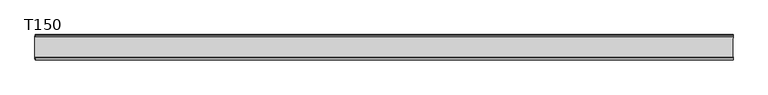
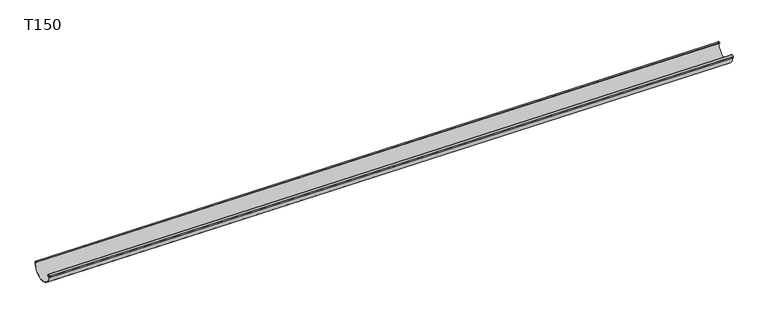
"""IFC4 building model written with IfcOpenShell, lengths in millimetres: proxy geometry, GROVIK_Gutter_Straight : T150."""

from ifc_helpers import new_model, si_unit, frame, origin, place, context, project, spatial, polyline, circle_curve, source, transform, mapped, element, save
from ifc_brep_helpers import plane_surface, cylinder_surface, revolved_surface, advanced_brep


def t150_019cf6e0(model_context):
    return source(origin(), model_context, "Body", "AdvancedBrep", [
        advanced_brep(
        [(119.9997573, -2.2000746, -0.0242675), (119.9820009, 0.0, -1.79991), (119.8376879, -148.4372161, -16.2312056), (119.9479959, -150.0, -5.2004066), (119.8939251, -147.5920528, -10.6074948), (119.9099408, -148.3363785, -9.0059161), (119.9445025, -148.8875189, -5.549755), (119.945996, -148.0, -5.4003966), (119.9105259, -147.4343725, -8.9474054), (119.9002942, -146.9551017, -9.9705756), (119.9461892, -149.0946963, -5.3810776), (119.8397148, -147.4579744, -16.0285195), (119.9794608, -1.003133, -2.0539243), (119.9904407, -2.2975071, -0.9559271), (119.9770489, -9.7857475, -2.2951132), (119.9859078, -9.9441961, -1.409215), (4239.9997573, -2.2000746, -41.2242675), (4239.9859078, -9.9441961, -42.609215), (4239.9770489, -9.7857475, -43.4951132), (4239.9904407, -2.2975071, -42.1559271), (4239.9794609, -1.0039531, -43.253913), (4239.8397148, -147.4579744, -57.2285195), (4239.9461892, -149.0946963, -46.5810776), (4239.9002942, -146.9551017, -51.1705756), (4239.9105259, -147.4343725, -50.1474054), (4239.945996, -148.0, -46.6003966), (4239.9445025, -148.8875189, -46.749755), (4239.9099408, -148.3363785, -50.2059161), (4239.8939251, -147.5920528, -51.8074948), (4239.9479959, -150.0, -46.4004066), (4239.8376879, -148.4372161, -57.4312056), (4239.9820009, 0.0, -42.99991)],
        [
            (0, 1, circle_curve(frame((119.9810009, -1.8973666, -1.899905), z_axis=(-0.9999500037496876, 0.0, 0.009999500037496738), x_axis=(0.0, -1.0, 0.0)), 1.9)),
            (1, 2, circle_curve(frame((119.9897005, -74.995059, -1.0299485), z_axis=(-0.9999500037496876, 0.0, 0.009999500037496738), x_axis=(0.0, 1.0, 0.0)), 74.9990118)),
            (2, 3),
            (3, 4, circle_curve(frame((119.9489959, -142.5, -5.1004116), z_axis=(-0.9999500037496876, 0.0, 0.009999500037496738), x_axis=(0.0, -1.0, 0.0)), 7.5006666)),
            (4, 5, circle_curve(frame((119.9150272, -145.1464101, -8.4972753), z_axis=(-0.9999500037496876, 0.0, 0.009999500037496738), x_axis=(0.0, -1.0, 0.0)), 3.2302694)),
            (5, 6),
            (6, 7),
            (7, 8),
            (8, 9, circle_curve(frame((119.9137458, -145.4150076, -8.6254175), z_axis=(0.9999500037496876, 0.0, -0.009999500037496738), x_axis=(0.0, -1.0, 0.0)), 2.0448768)),
            (9, 10, circle_curve(frame((119.9489959, -142.5, -5.1004116), z_axis=(0.9999500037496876, 0.0, -0.009999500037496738), x_axis=(0.0, -1.0, 0.0)), 6.6006666)),
            (10, 11),
            (11, 12, circle_curve(frame((119.9897005, -74.995059, -1.0299485), z_axis=(0.9999500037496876, 0.0, -0.009999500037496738), x_axis=(0.0, 1.0, 0.0)), 73.9990118)),
            (12, 13, circle_curve(frame((119.9796131, -2.1038477, -2.0386915), z_axis=(0.9999500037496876, 0.0, -0.009999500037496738), x_axis=(0.0, -1.0, 0.0)), 1.1)),
            (13, 14),
            (14, 15),
            (15, 0),
            (16, 17),
            (17, 18),
            (18, 19),
            (19, 20, circle_curve(frame((4239.9796131, -2.1038477, -43.2386915), z_axis=(-0.9999500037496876, 0.0, 0.009999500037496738), x_axis=(0.0, -1.0, 0.0)), 1.1)),
            (20, 21, circle_curve(frame((4239.9897005, -74.995059, -42.2299485), z_axis=(-0.9999500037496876, 0.0, 0.009999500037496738), x_axis=(0.0, 1.0, 0.0)), 73.9990118)),
            (21, 22),
            (22, 23, circle_curve(frame((4239.9489959, -142.5, -46.3004116), z_axis=(-0.9999500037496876, 0.0, 0.009999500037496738), x_axis=(0.0, -1.0, 0.0)), 6.6006666)),
            (23, 24, circle_curve(frame((4239.9137458, -145.4150076, -49.8254175), z_axis=(-0.9999500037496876, 0.0, 0.009999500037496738), x_axis=(0.0, -1.0, 0.0)), 2.0448768)),
            (24, 25),
            (25, 26),
            (26, 27),
            (27, 28, circle_curve(frame((4239.9150272, -145.1464101, -49.6972753), z_axis=(0.9999500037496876, 0.0, -0.009999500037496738), x_axis=(0.0, -1.0, 0.0)), 3.2302694)),
            (28, 29, circle_curve(frame((4239.9489959, -142.5, -46.3004116), z_axis=(0.9999500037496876, 0.0, -0.009999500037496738), x_axis=(0.0, -1.0, 0.0)), 7.5006666)),
            (29, 30),
            (30, 31, circle_curve(frame((4239.9897005, -74.995059, -42.2299485), z_axis=(0.9999500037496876, 0.0, -0.009999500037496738), x_axis=(0.0, 1.0, 0.0)), 74.9990118)),
            (31, 16, circle_curve(frame((4239.9810009, -1.8973666, -43.099905), z_axis=(0.9999500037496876, 0.0, -0.009999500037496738), x_axis=(0.0, -1.0, 0.0)), 1.9)),
            (12, 20),
            (19, 13),
            (18, 14),
            (17, 15),
            (16, 0),
            (31, 1),
            (30, 2),
            (29, 3),
            (28, 4),
            (27, 5),
            (26, 6),
            (25, 7),
            (24, 8),
            (23, 9),
            (22, 10),
            (21, 11),
        ],
        [
            plane_surface(frame((120.0, 0.0, 0.0), z_axis=(-0.9999500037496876, 0.0, 0.009999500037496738), x_axis=(0.0, -1.0, 0.0))),
            plane_surface(frame((4240.0, 0.0, -41.2), z_axis=(0.9999500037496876, 0.0, -0.009999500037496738), x_axis=(0.0, -1.0, 0.0))),
            revolved_surface(polyline([(4239.979613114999, -3.2038477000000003, -43.23869150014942), (119.9796130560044, -3.2038477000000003, -2.038691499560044)]), (119.9796131, -2.1038477, -2.0386915), (0.9999500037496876, 0.0, -0.009999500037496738)),
            plane_surface(frame((119.9904407, -2.2975071, -0.9559271), z_axis=(-0.009843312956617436, 0.17605399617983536, -0.9843312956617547), x_axis=(0.9999500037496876, 0.0, -0.009999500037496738))),
            plane_surface(frame((119.9770489, -9.7857475, -2.2951132), z_axis=(-0.001760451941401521, -0.9843805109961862, -0.17604519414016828), x_axis=(0.9999500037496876, 0.0, -0.009999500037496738))),
            plane_surface(frame((119.9859078, -9.9441961, -1.409215), z_axis=(0.009843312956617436, -0.17605399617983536, 0.9843312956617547), x_axis=(0.9999500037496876, 0.0, -0.009999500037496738))),
            cylinder_surface(frame((119.9810009, -1.8973666, -1.899905), z_axis=(-0.9999500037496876, 0.0, 0.009999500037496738), x_axis=(0.0, -1.0, 0.0)), 1.9),
            cylinder_surface(frame((119.9897005, -74.995059, -1.0299485), z_axis=(-0.9999500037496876, 0.0, 0.009999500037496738), x_axis=(0.0, 1.0, 0.0)), 74.9990118),
            plane_surface(frame((119.8376879, -148.4372161, -16.2312056), z_axis=(-0.0014025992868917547, -0.9901137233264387, -0.14025992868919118), x_axis=(0.9999500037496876, 0.0, -0.00999950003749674))),
            cylinder_surface(frame((119.9489959, -142.5, -5.1004116), z_axis=(-0.9999500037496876, 0.0, 0.009999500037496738), x_axis=(0.0, -1.0, 0.0)), 7.5006666),
            cylinder_surface(frame((119.9150272, -145.1464101, -8.4972753), z_axis=(-0.9999500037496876, 0.0, 0.009999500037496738), x_axis=(0.0, -1.0, 0.0)), 3.2302694),
            plane_surface(frame((119.9099408, -148.3363785, -9.0059161), z_axis=(-0.0015746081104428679, -0.9875239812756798, -0.15746081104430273), x_axis=(0.9999500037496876, 0.0, -0.009999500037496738))),
            plane_surface(frame((119.9445025, -148.8875189, -5.549755), z_axis=(0.009860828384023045, -0.16596204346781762, 0.9860828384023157), x_axis=(0.9999500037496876, 0.0, -0.00999950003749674))),
            plane_surface(frame((119.945996, -148.0, -5.4003966), z_axis=(0.0015746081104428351, 0.9875239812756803, 0.15746081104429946), x_axis=(0.9999500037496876, 0.0, -0.009999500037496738))),
            revolved_surface(polyline([(4239.9137458, -147.4598844, -49.82541749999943), (119.9137457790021, -147.4598844, -8.62541749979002)]), (119.9137458, -145.4150076, -8.6254175), (0.9999500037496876, 0.0, -0.009999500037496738)),
            revolved_surface(polyline([(4239.9489959, -149.1006666, -46.300411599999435), (119.948995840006, -149.1006666, -5.1004115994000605)]), (119.9489959, -142.5, -5.1004116), (0.9999500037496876, 0.0, -0.009999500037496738)),
            plane_surface(frame((119.9461892, -149.0946963, -5.3810776), z_axis=(0.0015192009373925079, 0.9883916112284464, 0.15192009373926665), x_axis=(0.9999500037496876, 0.0, -0.009999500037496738))),
            revolved_surface(polyline([(4239.989700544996, -0.9960471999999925, -42.22994850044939), (119.9897005, -0.9960471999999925, -1.0299485)]), (119.9897005, -74.995059, -1.0299485), (0.9999500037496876, 0.0, -0.009999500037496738)),
        ],
        [
            (0, [[1, 2, 3, 4, 5, 6, 7, 8, 9, 10, 11, 12, 13, 14, 15, 16]]),
            (1, [[17, 18, 19, 20, 21, 22, 23, 24, 25, 26, 27, 28, 29, 30, 31, 32]]),
            (2, [[-13, 33, -20, 34]]),
            (3, [[-14, -34, -19, 35]]),
            (4, [[-15, -35, -18, 36]]),
            (5, [[-16, -36, -17, 37]]),
            (6, [[-1, -37, -32, 38]]),
            (7, [[-2, -38, -31, 39]]),
            (8, [[-3, -39, -30, 40]]),
            (9, [[-4, -40, -29, 41]]),
            (10, [[-5, -41, -28, 42]]),
            (11, [[-6, -42, -27, 43]]),
            (12, [[-7, -43, -26, 44]]),
            (13, [[-8, -44, -25, 45]]),
            (14, [[-9, -45, -24, 46]]),
            (15, [[-10, -46, -23, 47]]),
            (16, [[-11, -47, -22, 48]]),
            (17, [[-12, -48, -21, -33]]),
        ],
    ),
    ])


if __name__ == "__main__":
    model = new_model("IFC4")
    model_context = context("Model", 3, world=origin())
    ifc_project = project(units=[si_unit("LENGTHUNIT", "METRE", prefix="MILLI")], contexts=[model_context])
    site = spatial("IfcSite", under=ifc_project)
    building = spatial("IfcBuilding", under=site)
    placement = place(None, origin())
    t150_shape = t150_019cf6e0(model_context)
    element("IfcBuildingElementProxy", 1, Name="GROVIK_Gutter_Straight : T150", ObjectType="GROVIK_Gutter_Straight : T150", at=placement, inside=building, context=model_context, shape_type="MappedRepresentation", body=[
        mapped(t150_shape, transform((0.0, 0.0, 0.0), x_axis=(1.0, 0.0, 0.0), y_axis=(0.0, 1.0, 0.0), z_axis=(0.0, 0.0, 1.0))),
    ])
    save(model, "model.ifc")
